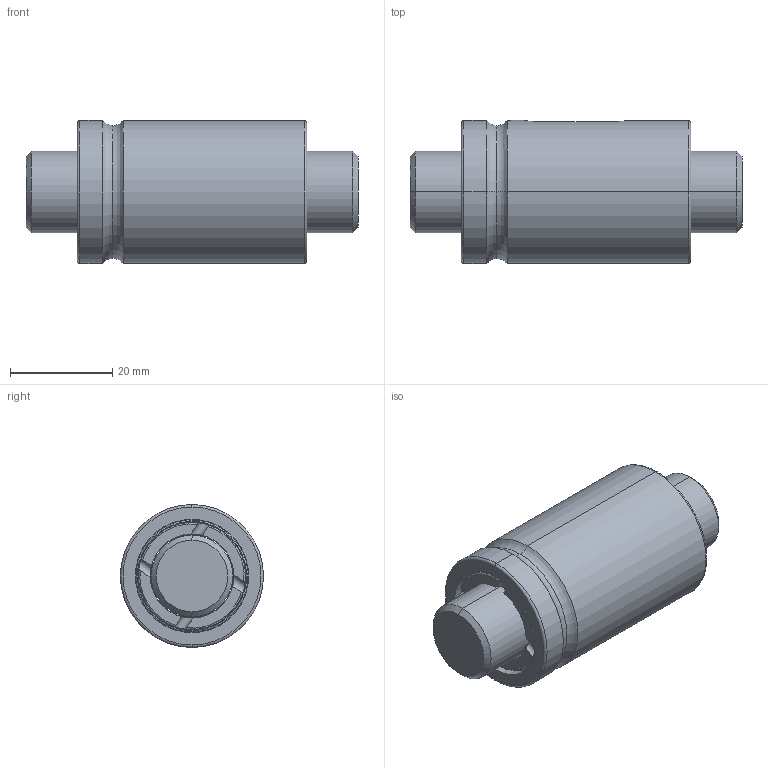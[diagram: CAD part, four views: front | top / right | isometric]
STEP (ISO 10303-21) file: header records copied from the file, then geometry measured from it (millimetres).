
FILE_DESCRIPTION (( 'STEP AP203' ), '1' );
FILE_NAME ('XCIR01604T4-C.STEP', '2020-06-17T07:46:04', ( '' ), ( '' ), 'SwSTEP 2.0', 'SolidWorks 2013', '' );
FILE_SCHEMA (( 'CONFIG_CONTROL_DESIGN' ));
Length unit declared in the file: millimetre
Products named in the file (1): XCIR01604T4-C
Bounding box: 65 x 28 x 28 mm (x, y, z)
Volume: 29560.7 mm3; surface area: 12143.9 mm2
Topology: 2 solids, 2 shells, 93 faces, 215 edges, 132 vertices
Faces by surface type: cylinder 42, torus 26, plane 21, cone 4
Entity records: 3117 total; most frequent: CARTESIAN_POINT 913, DIRECTION 474, ORIENTED_EDGE 430, EDGE_CURVE 215, AXIS2_PLACEMENT_3D 211, VERTEX_POINT 132, CIRCLE 117, EDGE_LOOP 103
